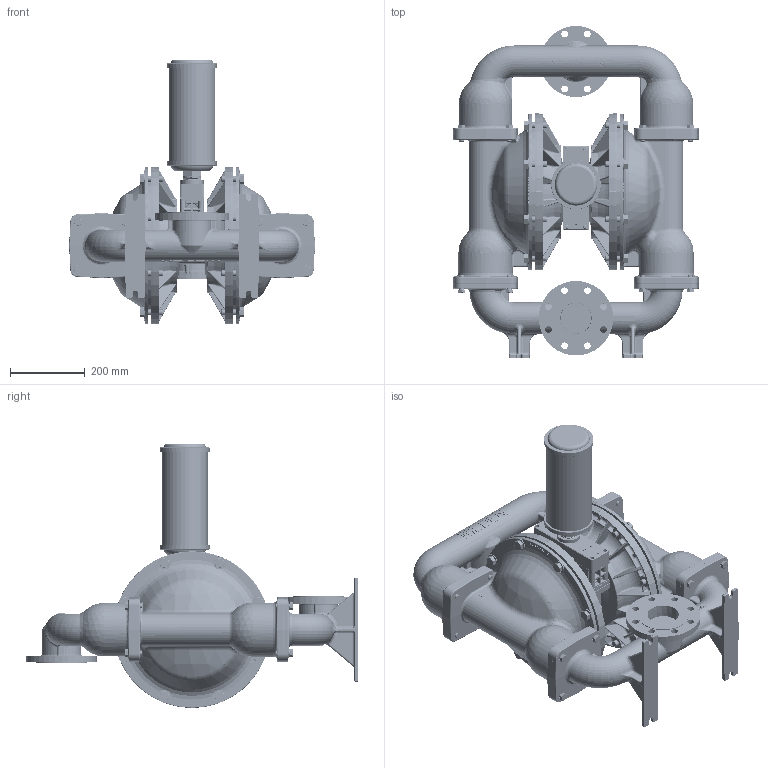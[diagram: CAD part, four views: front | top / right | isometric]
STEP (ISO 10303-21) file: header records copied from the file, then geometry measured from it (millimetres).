
FILE_DESCRIPTION (( 'STEP AP203' ), '1' );
FILE_NAME ('PS1530_ADV_SS_DIN.STEP', '2022-05-27T08:06:40', ( '' ), ( '' ), 'SwSTEP 2.0', 'SolidWorks 2019', '' );
FILE_SCHEMA (( 'CONFIG_CONTROL_DESIGN' ));
Length unit declared in the file: inch
Products named in the file (1): PS1530_ADV_SS_DIN
Bounding box: 659.94 x 890.9 x 710.18 mm (x, y, z)
Volume: 54730753.4 mm3; surface area: 2560423.3 mm2
Topology: 1 solids, 1 shells, 10684 faces, 26258 edges, 15882 vertices
Faces by surface type: plane 4451, bspline 2654, cylinder 1301, torus 1043, cone 715, sphere 520
Entity records: 701716 total; most frequent: CARTESIAN_POINT 471905, ORIENTED_EDGE 52428, DIRECTION 41832, EDGE_CURVE 26214, VERTEX_POINT 15874, AXIS2_PLACEMENT_3D 15551, EDGE_LOOP 11142, VECTOR 10730
